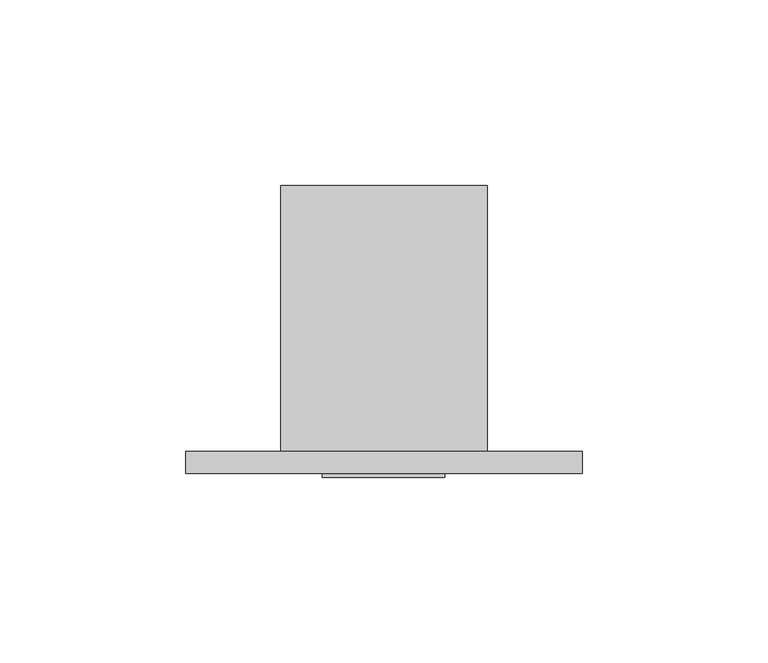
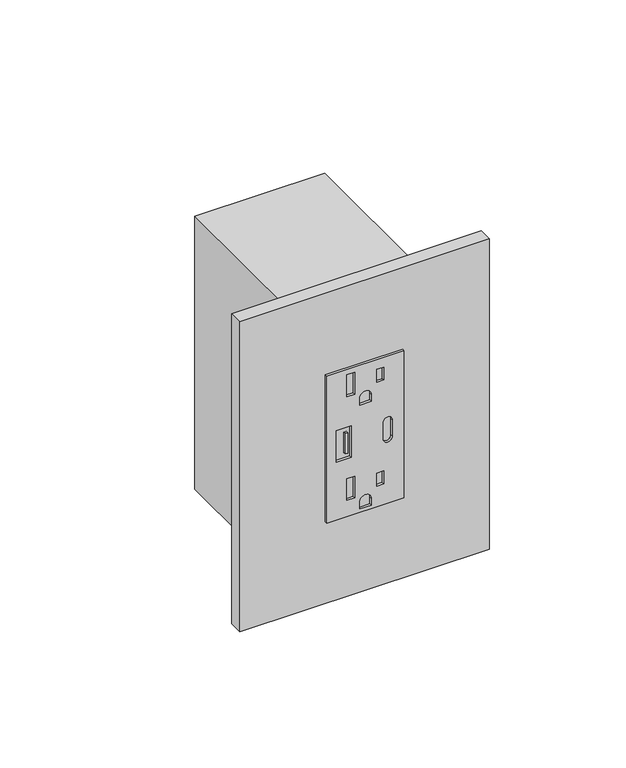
"""IFC4 building model written with IfcOpenShell, lengths in millimetres: proxy geometry, Electrical-Teknion-EPDMS_Vertical_Power_Data_Single-R2019 : PD Vertical Module - Single 15 Amp USB (A+C)."""

from ifc_helpers import new_model, si_unit, point, frame, frame_2d, origin, place, context, project, spatial, polyline, circle_curve, trimmed, segment, composite_curve, outline, extrude, source, transform, mapped, element, save


def electrical_fixtures_5d6b1b63(model_context):
    return source(origin(), model_context, "Body", "SweptSolid", [
        extrude(outline(polyline([(490.474, 44.0944), (490.474, 11.0998), (423.926, 11.0998), (423.926, 44.0944), (490.474, 44.0944)]), holes=[polyline([(488.0356, 22.9616), (478.2080649, 22.9616), (478.2080649, 19.6342), (488.0356, 19.6342), (488.0356, 22.9616)]), polyline([(486.0301324, 35.41014), (480.2135324, 35.41014), (480.2135324, 32.4358), (486.0301324, 32.4358), (486.0301324, 35.41014)]), composite_curve([segment(polyline([(472.44, 30.0609), (472.44, 25.1333), (475.5388, 25.1333)]), True, "CONTINUOUS"), segment(trimmed(circle_curve(frame_2d((475.5388, 27.5971)), 2.4638), [point((475.5388, 25.1333))], [point((475.5388, 30.0609))], True, "CARTESIAN"), True, "CONTINUOUS"), segment(polyline([(475.5388, 30.0609), (472.44, 30.0609)]), True, "CONTINUOUS")], self_intersect=False), polyline([(441.0456, 22.9616), (431.2180649, 22.9616), (431.2180649, 19.6342), (441.0456, 19.6342), (441.0456, 22.9616)]), polyline([(439.0401324, 35.41014), (433.2235324, 35.41014), (433.2235324, 32.4358), (439.0401324, 32.4358), (439.0401324, 35.41014)]), composite_curve([segment(polyline([(425.45, 30.0609), (425.45, 25.1333), (428.5488, 25.1333)]), True, "CONTINUOUS"), segment(trimmed(circle_curve(frame_2d((428.5488, 27.5971)), 2.4638), [point((428.5488, 25.1333))], [point((428.5488, 30.0609))], True, "CARTESIAN"), True, "CONTINUOUS"), segment(polyline([(428.5488, 30.0609), (425.45, 30.0609)]), True, "CONTINUOUS")], self_intersect=False), polyline([(464.2485, 21.59), (450.1515, 21.59), (450.1515, 15.0876), (464.2485, 15.0876), (464.2485, 21.59)]), composite_curve([segment(trimmed(circle_curve(frame_2d((453.4154, 37.1348)), 1.905), [point((453.4154, 39.0398))], [point((453.4154, 35.2298))], True, "CARTESIAN"), True, "CONTINUOUS"), segment(polyline([(453.4154, 35.2298), (460.9846, 35.2298)]), True, "CONTINUOUS"), segment(trimmed(circle_curve(frame_2d((460.9846, 37.1348)), 1.905), [point((460.9846, 35.2298))], [point((460.9846, 39.0398))], True, "CARTESIAN"), True, "CONTINUOUS"), segment(polyline([(460.9846, 39.0398), (453.4154, 39.0398)]), True, "CONTINUOUS")], self_intersect=False)]), frame((0.0, -6.9294746, 0.0), z_axis=(0.0, 1.0, 0.0), x_axis=(0.0, 0.0, 1.0)), (0.0, 0.0, 1.0), 1.0366746),
        extrude(outline(polyline([(20.0803959, -6.9294746), (18.9613268, -6.9294746), (18.9613268, -5.8928), (20.0803959, -5.8928), (20.0803959, -6.9294746)])), frame((0.0, 0.0, 452.4998162), z_axis=(0.0, 0.0, 1.0), x_axis=(1.0, 0.0, 0.0)), (0.0, 0.0, 1.0), 9.2470447),
        extrude(outline(polyline([(-25.6794, 0.0), (81.2292, 0.0), (81.2292, -5.8928), (-25.6794, -5.8928), (-25.6794, 0.0)])), frame((0.0, 0.0, 387.0198), z_axis=(0.0, 0.0, 1.0), x_axis=(1.0, 0.0, 0.0)), (0.0, 0.0, 1.0), 140.3604),
        extrude(outline(polyline([(55.5498, 0.0), (0.0, 0.0), (0.0, 71.7296), (55.5498, 71.7296), (55.5498, 0.0)])), frame((0.0, 0.0, 395.4526), z_axis=(0.0, 0.0, 1.0), x_axis=(1.0, 0.0, 0.0)), (0.0, 0.0, 1.0), 123.4948),
    ])


if __name__ == "__main__":
    model = new_model("IFC4")
    model_context = context("Model", 3, world=origin())
    ifc_project = project(units=[si_unit("LENGTHUNIT", "METRE", prefix="MILLI")], contexts=[model_context])
    site = spatial("IfcSite", under=ifc_project)
    building = spatial("IfcBuilding", under=site)
    placement = place(None, origin())
    electrical_fixtures_shape = electrical_fixtures_5d6b1b63(model_context)
    element("IfcBuildingElementProxy", 1, Name="Electrical-Teknion-EPDMS_Vertical_Power_Data_Single-R2019 : PD Vertical Module - Single 15 Amp USB (A+C)", ObjectType="Electrical-Teknion-EPDMS_Vertical_Power_Data_Single-R2019 : PD Vertical Module - Single 15 Amp USB (A+C)", at=placement, inside=building, context=model_context, shape_type="MappedRepresentation", body=[
        mapped(electrical_fixtures_shape, transform((0.0, 0.0, 0.0), x_axis=(1.0, 0.0, 0.0), y_axis=(0.0, 1.0, 0.0), z_axis=(0.0, 0.0, 1.0))),
    ])
    save(model, "model.ifc")
